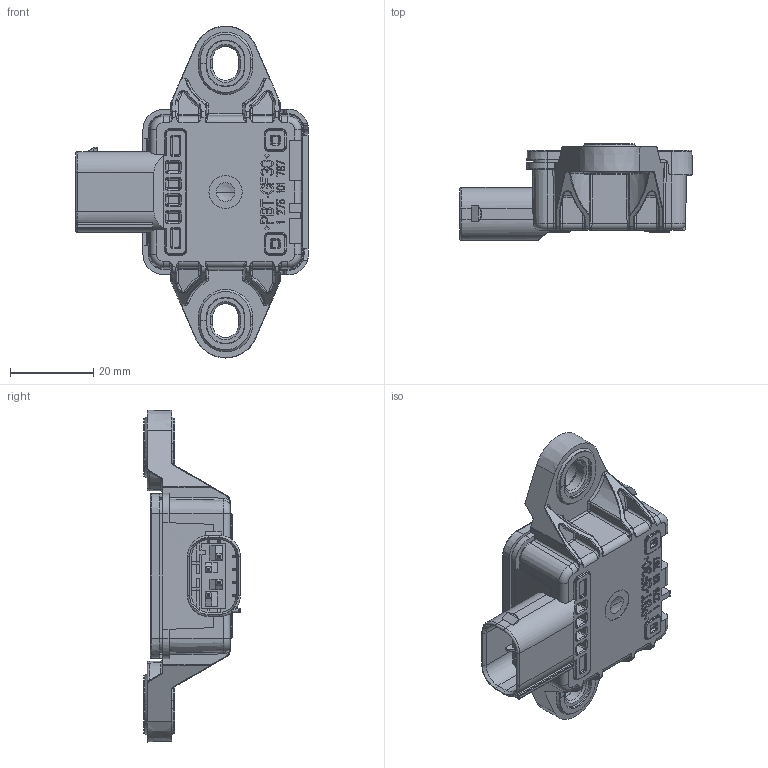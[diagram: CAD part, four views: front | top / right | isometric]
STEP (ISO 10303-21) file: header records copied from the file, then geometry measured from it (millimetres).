
FILE_DESCRIPTION((''),'2;1');
FILE_NAME('0265011044_SHRINKWRAP','2018-08-27T10:57:41',('BTR2BP'),(''),'CREO PARAMETRIC BY PTC INC, 2017260','CREO PARAMETRIC BY PTC INC, 2017260','');
FILE_SCHEMA(('AUTOMOTIVE_DESIGN { 1 0 10303 214 1 1 1 1 }'));
Products named in the file (1): 0265011044_SHRINKWRAP
Bounding box: 56.03 x 23.27 x 80 mm (x, y, z)
Surface area: 14691.7 mm2 (no closed solid volume)
Topology: 0 solids, 30 shells, 1929 faces, 5803 edges, 3915 vertices
Faces by surface type: plane 930, cylinder 416, bspline 316, torus 140, cone 87, sphere 40
Entity records: 94918 total; most frequent: CARTESIAN_POINT 31185, ORIENTED_EDGE 10342, DIRECTION 9347, EDGE_CURVE 5801, VERTEX_POINT 3915, VECTOR 3801, LINE 3801, AXIS2_PLACEMENT_3D 2773
